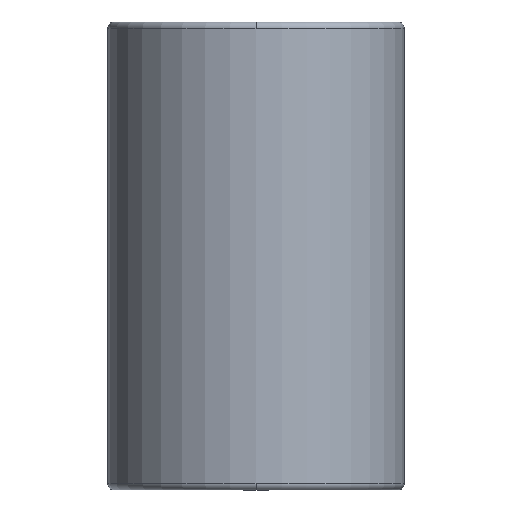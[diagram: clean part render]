
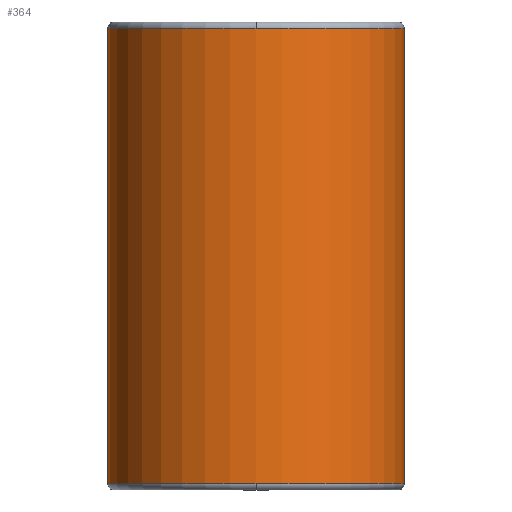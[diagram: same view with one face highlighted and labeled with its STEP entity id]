
A CAD part, front view. The second image highlights one B-rep face of the part: STEP entity #364.
In plain terms, the highlighted cylindrical face has radius 47.492 mm (diameter 94.984 mm), a partial arc.
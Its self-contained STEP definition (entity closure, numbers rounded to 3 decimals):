
#269=CARTESIAN_POINT('',(0.0,-47.492,148.0));
#270=VERTEX_POINT('',#269);
#296=CARTESIAN_POINT('',(-47.492,0.,148.0));
#297=VERTEX_POINT('',#296);
#305=CARTESIAN_POINT('',(0.0,0.,148.0));
#306=DIRECTION('',(0.0,0.0,1.0));
#307=DIRECTION('',(1.0,0.0,0.0));
#308=AXIS2_PLACEMENT_3D('',#305,#306,#307);
#309=CIRCLE('',#308,47.492);
#310=EDGE_CURVE('',#297,#270,#309,.T.);
#315=CARTESIAN_POINT('',(0.0,0.,75.0));
#316=DIRECTION('',(0.0,0.,1.0));
#317=DIRECTION('',(1.0,0.0,0.0));
#318=AXIS2_PLACEMENT_3D('',#315,#316,#317);
#319=CYLINDRICAL_SURFACE('',#318,47.492);
#320=CARTESIAN_POINT('',(47.492,0.,148.0));
#321=VERTEX_POINT('',#320);
#322=CARTESIAN_POINT('',(47.492,0.,2.));
#323=VERTEX_POINT('',#322);
#324=CARTESIAN_POINT('',(47.492,0.,148.0));
#325=DIRECTION('',(0.0,0.0,-1.0));
#326=VECTOR('',#325,146.0);
#327=LINE('',#324,#326);
#328=EDGE_CURVE('',#321,#323,#327,.T.);
#329=ORIENTED_EDGE('',*,*,#328,.F.);
#330=CARTESIAN_POINT('',(0.0,0.,148.0));
#331=DIRECTION('',(0.0,0.0,1.0));
#332=DIRECTION('',(1.0,0.0,0.0));
#333=AXIS2_PLACEMENT_3D('',#330,#331,#332);
#334=CIRCLE('',#333,47.492);
#335=EDGE_CURVE('',#270,#321,#334,.T.);
#336=ORIENTED_EDGE('',*,*,#335,.F.);
#337=ORIENTED_EDGE('',*,*,#310,.F.);
#338=CARTESIAN_POINT('',(-47.492,0.,2.0));
#339=VERTEX_POINT('',#338);
#340=CARTESIAN_POINT('',(-47.492,0.,148.0));
#341=DIRECTION('',(0.0,0.0,-1.0));
#342=VECTOR('',#341,146.0);
#343=LINE('',#340,#342);
#344=EDGE_CURVE('',#297,#339,#343,.T.);
#345=ORIENTED_EDGE('',*,*,#344,.T.);
#346=CARTESIAN_POINT('',(0.0,-47.492,2.));
#347=VERTEX_POINT('',#346);
#348=CARTESIAN_POINT('',(0.0,0.,2.0));
#349=DIRECTION('',(0.0,0.0,1.0));
#350=DIRECTION('',(1.0,0.0,0.0));
#351=AXIS2_PLACEMENT_3D('',#348,#349,#350);
#352=CIRCLE('',#351,47.492);
#353=EDGE_CURVE('',#339,#347,#352,.T.);
#354=ORIENTED_EDGE('',*,*,#353,.T.);
#355=CARTESIAN_POINT('',(0.0,0.,2.0));
#356=DIRECTION('',(0.0,0.0,1.0));
#357=DIRECTION('',(1.0,0.0,0.0));
#358=AXIS2_PLACEMENT_3D('',#355,#356,#357);
#359=CIRCLE('',#358,47.492);
#360=EDGE_CURVE('',#347,#323,#359,.T.);
#361=ORIENTED_EDGE('',*,*,#360,.T.);
#362=EDGE_LOOP('',(#329,#336,#337,#345,#354,#361));
#363=FACE_OUTER_BOUND('',#362,.T.);
#364=ADVANCED_FACE('',(#363),#319,.T.);
